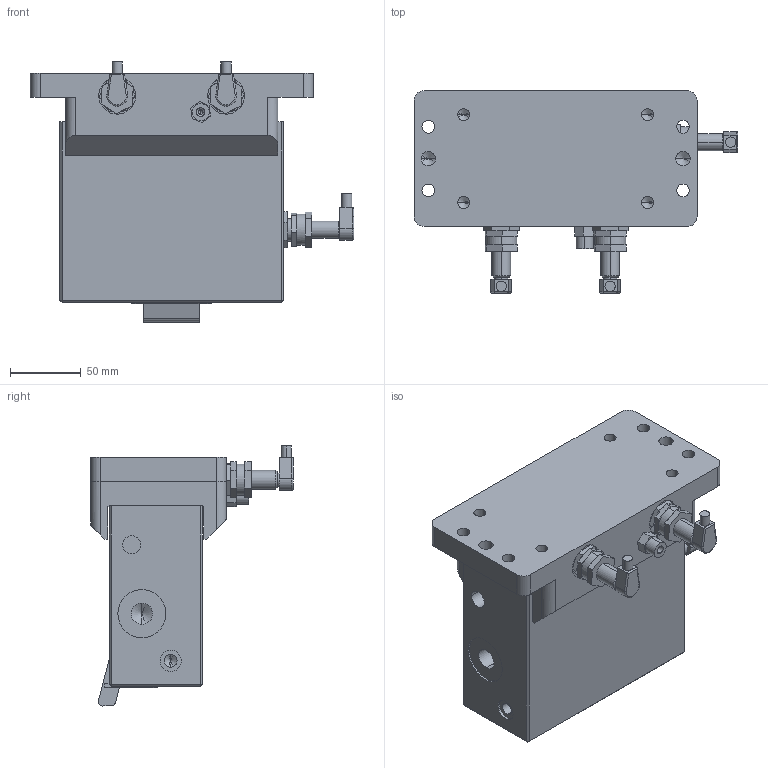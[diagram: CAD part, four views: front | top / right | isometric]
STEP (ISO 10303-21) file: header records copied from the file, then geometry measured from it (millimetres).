
FILE_DESCRIPTION (( 'STEP AP203' ), '1' );
FILE_NAME ('DBSUSR550-15-EW_Anschlag ausgefahren oben.STEP', '2013-09-13T10:45:22', ( 'test' ), ( '' ), 'SwSTEP 2.0', 'SolidWorks 2012', '' );
FILE_SCHEMA (( 'CONFIG_CONTROL_DESIGN' ));
Length unit declared in the file: millimetre
Products named in the file (1): DBSUSR550-15-EW_Anschlag ausgefahren oben
Bounding box: 228.75 x 143.2 x 183.84 mm (x, y, z)
Volume: 1881179.4 mm3; surface area: 186893.8 mm2
Topology: 3 solids, 6 shells, 424 faces, 1010 edges, 608 vertices
Faces by surface type: plane 253, cylinder 119, cone 44, torus 8
Entity records: 11947 total; most frequent: DIRECTION 2108, CARTESIAN_POINT 2041, ORIENTED_EDGE 1956, EDGE_CURVE 978, AXIS2_PLACEMENT_3D 715, VECTOR 678, LINE 678, VERTEX_POINT 608
